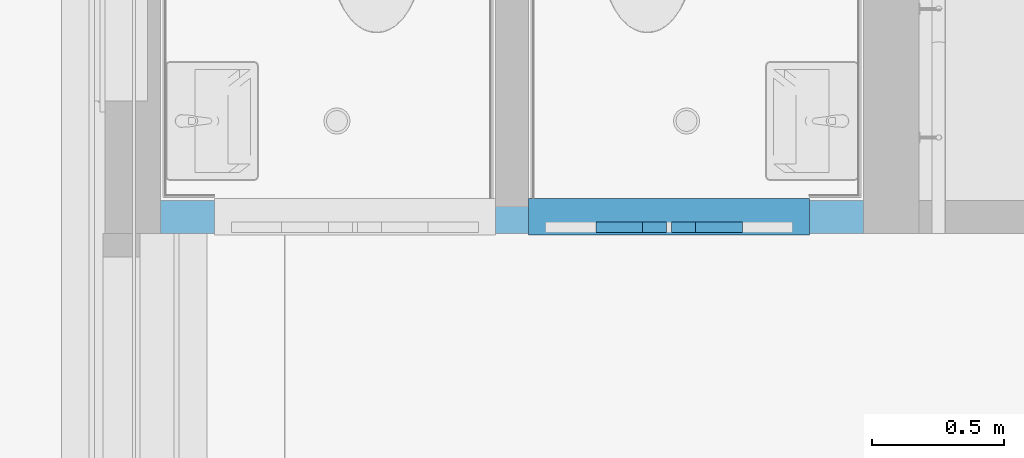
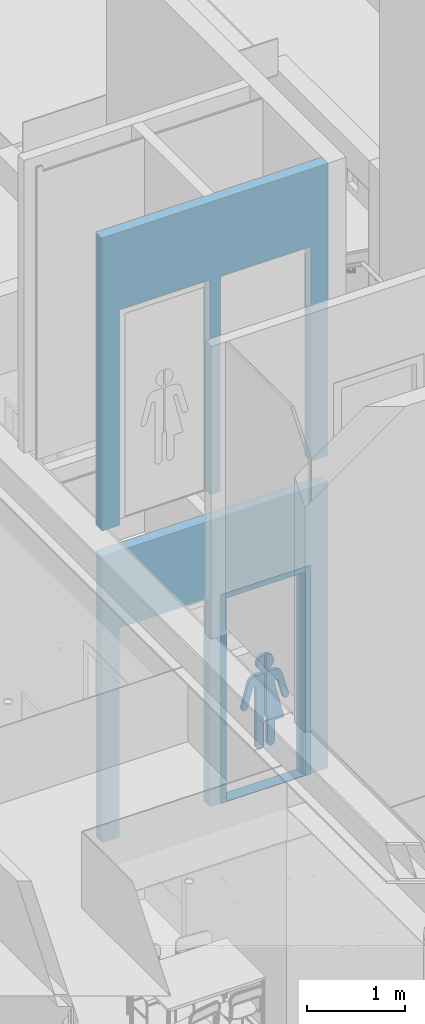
# One storey, part 56 of 347: 2 building element parts, 4 openings, 1 element without a shape of its own, plus 1 element that does not belong to this part.
"""IFC2X3 building model written with IfcOpenShell, lengths in millimetres."""

from ifc_helpers import new_model, entity, si_unit, converted_unit, derived_unit, money_unit, direction, frame, origin_with_axes, place, context, subcontext, project, spatial, faceted_brep, source, transform, mapped, material, type_object, element, fill, aggregate, save


model = new_model("IFC2X3")

# Units and contexts
model_context = context("Model", 3, precision=0.01, world=origin_with_axes(), true_north=direction((0.0, 1.0)))
plan_context = context("Plan", 3, precision=0.01, world=origin_with_axes(), true_north=direction((0.0, 1.0)))
body_context = subcontext(model_context, "Body", "Model", "MODEL_VIEW")
ifc_project = project(units=[si_unit("LENGTHUNIT", "METRE", prefix="MILLI"), si_unit("AREAUNIT", "SQUARE_METRE"), si_unit("VOLUMEUNIT", "CUBIC_METRE"), converted_unit("PLANEANGLEUNIT", "DEGREE", entity("IfcPlaneAngleMeasure", 0.0174532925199), si_unit("PLANEANGLEUNIT", "RADIAN"), dimensions=[0, 0, 0, 0, 0, 0, 0]), money_unit("EUR"), converted_unit("TIMEUNIT", "Year", entity("IfcTimeMeasure", 31556926.0), si_unit("TIMEUNIT", "SECOND"), dimensions=[0, 0, 1, 0, 0, 0, 0]), si_unit("MASSUNIT", "GRAM", prefix="KILO"), si_unit("THERMODYNAMICTEMPERATUREUNIT", "DEGREE_CELSIUS"), si_unit("LUMINOUSINTENSITYUNIT", "LUMEN"), si_unit("ENERGYUNIT", "JOULE", prefix="MEGA"), derived_unit("THERMALCONDUCTANCEUNIT", [(si_unit("POWERUNIT", "WATT"), 1), (si_unit("LENGTHUNIT", "METRE"), -1), (si_unit("THERMODYNAMICTEMPERATUREUNIT", "KELVIN"), -1)]), derived_unit("SPECIFICHEATCAPACITYUNIT", [(si_unit("ENERGYUNIT", "JOULE"), 1), (si_unit("MASSUNIT", "GRAM", prefix="KILO"), -1), (si_unit("THERMODYNAMICTEMPERATUREUNIT", "KELVIN"), -1)]), derived_unit("MASSDENSITYUNIT", [(si_unit("MASSUNIT", "GRAM", prefix="KILO"), 1), (si_unit("VOLUMEUNIT", "CUBIC_METRE"), -1)])], contexts=[model_context, plan_context])

# Site, building, storey
site_placement = place(None, origin_with_axes())
site = spatial("IfcSite", under=ifc_project, at=site_placement, Name="Site", CompositionType="ELEMENT")
building_placement = place(site_placement, origin_with_axes())
building = spatial("IfcBuilding", under=site, at=building_placement, Name="Naam gebouw", CompositionType="ELEMENT")
storey_placement = place(building_placement, origin_with_axes())
storey = spatial("IfcBuildingStorey", under=building, at=storey_placement, Name="begane grond", CompositionType="ELEMENT", Elevation=0.0)

# Wall, openings, door, building element parts
ifc_material_1 = material(Name="ALG - LICHTE SCHEIDINGSWAND")
wall_type = type_object("IfcWallType", Name="ALG LSW 125 125", PredefinedType="NOTDEFINED")
wall_placement = place(storey_placement, frame((35705.0, 30074.9999277, 0.0), z_axis=(0.0, 0.0, 1.0), x_axis=(1.0, 0.0, 0.0)))
wall = element("IfcWall", 1, at=wall_placement, inside=storey, type_object=wall_type, material=ifc_material_1, Name="22_GF 125 ECO DGS/2.75.2A", context=body_context, shape_type="Brep", body=[
    faceted_brep([(1392.5, 125.0, 2600.0), (1392.5, 125.0, 0.0), (1267.5, 125.0, 0.0), (1267.5, 125.0, 2600.0), (203.5, 125.0, 2600.0), (203.5, 125.0, 0.0), (0.0, 125.0, 0.0), (0.0, 125.0, 3560.0), (2660.0, 125.0, 3560.0), (2660.0, 125.0, 0.0), (2456.5, 125.0, 0.0), (2456.5, 125.0, 2600.0), (1392.5, 0.0, 2600.0), (1392.5, 0.0, 0.0), (1267.5, 0.0, 0.0), (1267.5, 0.0, 2600.0), (203.5, 0.0, 2600.0), (203.5, 0.0, 0.0), (0.0, 0.0, 0.0), (0.0, 0.0, 3560.0), (2660.0, 0.0, 3560.0), (2660.0, 0.0, 0.0), (2456.5, 0.0, 0.0), (2456.5, 0.0, 2600.0)], [[[0, 1, 2, 3, 4, 5, 6, 7, 8, 9, 10, 11]], [[1, 0, 12, 13]], [[1, 13, 14, 2]], [[2, 14, 15, 3]], [[3, 15, 16, 4]], [[4, 16, 17, 5]], [[17, 18, 6, 5]], [[7, 6, 18, 19]], [[8, 7, 19, 20]], [[20, 21, 9, 8]], [[22, 10, 9, 21]], [[11, 10, 22, 23]], [[0, 11, 23, 12]], [[23, 22, 21, 20, 19, 18, 17, 16, 15, 14, 13, 12]]]),
    faceted_brep([(203.5, 125.0, 6560.0), (203.5, 125.0, 3960.0), (203.5, 125.0, 3880.0), (0.0, 125.0, 3880.0), (0.0, 125.0, 7520.0), (2660.0, 125.0, 7520.0), (2660.0, 125.0, 3880.0), (2456.5, 125.0, 3880.0), (2456.5, 125.0, 3960.0), (2456.5, 125.0, 6560.0), (1392.5, 125.0, 6560.0), (1392.5, 125.0, 3960.0), (1392.5, 125.0, 3880.0), (1267.5, 125.0, 3880.0), (1267.5, 125.0, 3960.0), (1267.5, 125.0, 6560.0), (203.5, 0.0, 6560.0), (203.5, 0.0, 3960.0), (203.5, 0.0, 3880.0), (0.0, 0.0, 3880.0), (0.0, 0.0, 7520.0), (2660.0, 0.0, 7520.0), (2660.0, 0.0, 3880.0), (2456.5, 0.0, 3880.0), (2456.5, 0.0, 3960.0), (2456.5, 0.0, 6560.0), (1392.5, 0.0, 6560.0), (1392.5, 0.0, 3960.0), (1392.5, 0.0, 3880.0), (1267.5, 0.0, 3880.0), (1267.5, 0.0, 3960.0), (1267.5, 0.0, 6560.0)], [[[0, 1, 2, 3, 4, 5, 6, 7, 8, 9, 10, 11, 12, 13, 14, 15]], [[1, 0, 16, 17]], [[1, 17, 18, 2]], [[18, 19, 3, 2]], [[19, 20, 4, 3]], [[4, 20, 21, 5]], [[6, 5, 21, 22]], [[7, 6, 22, 23]], [[8, 7, 23, 24]], [[8, 24, 25, 9]], [[9, 25, 26, 10]], [[10, 26, 27, 11]], [[27, 28, 12, 11]], [[28, 29, 13, 12]], [[30, 14, 13, 29]], [[15, 14, 30, 31]], [[0, 15, 31, 16]], [[31, 30, 29, 28, 27, 26, 25, 24, 23, 22, 21, 20, 19, 18, 17, 16]]]),
])
opening_1_placement = place(wall_placement, frame((735.5, 0.0, 0.0), z_axis=(0.0, 0.0, 1.0), x_axis=(1.0, 0.0, 0.0)))
element("IfcOpeningElement", 2, at=opening_1_placement, cuts=wall, Name="32_02.05", context=body_context, shape_type="Brep", body=[
    faceted_brep([(-532.0, 125.0, 2600.0), (-532.0, 125.0, 0.0), (-532.0, -257.0, 0.0), (-532.0, -257.0, 2600.0), (532.0, 125.0, 2600.0), (532.0, 125.0, 0.0), (532.0, -257.0, 0.0), (532.0, -257.0, 2600.0)], [[[0, 1, 2, 3]], [[0, 4, 5, 1]], [[1, 5, 6, 2]], [[3, 2, 6, 7]], [[4, 0, 3, 7]], [[5, 4, 7, 6]]]),
])
opening_2_placement = place(wall_placement, frame((1924.5, 0.0, 0.0), z_axis=(0.0, 0.0, 1.0), x_axis=(1.0, 0.0, 0.0)))
opening_2 = element("IfcOpeningElement", 3, at=opening_2_placement, cuts=wall, Name="32_02.05", context=body_context, shape_type="Brep", body=[
    faceted_brep([(-532.0, 125.0, 2600.0), (-532.0, 125.0, 0.0), (-532.0, -257.0, 0.0), (-532.0, -257.0, 2600.0), (532.0, 125.0, 2600.0), (532.0, 125.0, 0.0), (532.0, -257.0, 0.0), (532.0, -257.0, 2600.0)], [[[0, 1, 2, 3]], [[0, 4, 5, 1]], [[1, 5, 6, 2]], [[3, 2, 6, 7]], [[4, 0, 3, 7]], [[5, 4, 7, 6]]]),
])
opening_3_placement = place(wall_placement, frame((1924.5, 0.0, 3960.0), z_axis=(0.0, 0.0, 1.0), x_axis=(1.0, 0.0, 0.0)))
element("IfcOpeningElement", 4, at=opening_3_placement, cuts=wall, Name="32_02.05", context=body_context, shape_type="Brep", body=[
    faceted_brep([(-532.0, -125.0, 0.0), (-532.0, -125.0, 2600.0), (-532.0, 257.0, 2600.0), (-532.0, 257.0, 0.0), (532.0, -125.0, 0.0), (532.0, -125.0, 2600.0), (532.0, 257.0, 2600.0), (532.0, 257.0, 0.0)], [[[0, 1, 2, 3]], [[0, 4, 5, 1]], [[1, 5, 6, 2]], [[3, 2, 6, 7]], [[4, 0, 3, 7]], [[5, 4, 7, 6]]]),
])
opening_4_placement = place(wall_placement, frame((735.5, 0.0, 3960.0), z_axis=(0.0, 0.0, 1.0), x_axis=(1.0, 0.0, 0.0)))
element("IfcOpeningElement", 5, at=opening_4_placement, cuts=wall, Name="32_02.05", context=body_context, shape_type="Brep", body=[
    faceted_brep([(-532.0, -125.0, 0.0), (-532.0, -125.0, 2600.0), (-532.0, 257.0, 2600.0), (-532.0, 257.0, 0.0), (532.0, -125.0, 0.0), (532.0, -125.0, 2600.0), (532.0, 257.0, 2600.0), (532.0, 257.0, 0.0)], [[[0, 1, 2, 3]], [[0, 4, 5, 1]], [[1, 5, 6, 2]], [[3, 2, 6, 7]], [[4, 0, 3, 7]], [[5, 4, 7, 6]]]),
])
door_style = type_object("IfcDoorStyle", Name="D1 25", ConstructionType="NOTDEFINED", OperationType="SINGLE_SWING_RIGHT", ParameterTakesPrecedence=False, Sizeable=False)
door_placement = place(opening_2_placement, frame((532.0, 0.0, 0.0), z_axis=(0.0, 0.0, 1.0), x_axis=(-1.0, 0.0, 0.0)))
door = element("IfcDoor", 6, at=door_placement, inside=storey, type_object=door_style, Name="32_02.05", ObjectType="DOOR", OverallHeight=2600.0, OverallWidth=1064.0)
fill(opening_2, door)
shared_shape_1 = source(origin_with_axes(), body_context, "Body", "Brep", [
    faceted_brep([(-467.0, -40.0, 10.0), (-442.0, -40.0, 10.0), (-442.0, -139.0, 10.0), (442.0, -139.0, 10.0), (442.0, -40.0, 10.0), (467.0, -40.0, 10.0), (467.0, 0.0, 10.0), (-467.0, 0.0, 10.0), (-467.0, -40.0, 0.0), (-442.0, -40.0, 0.0), (-442.0, -139.0, 0.0), (442.0, -139.0, 0.0), (442.0, -40.0, 0.0), (467.0, -40.0, 0.0), (467.0, 0.0, 0.0), (-467.0, 0.0, 0.0)], [[[0, 1, 2, 3, 4, 5, 6, 7]], [[1, 0, 8, 9]], [[10, 2, 1, 9]], [[2, 10, 11, 3]], [[3, 11, 12, 4]], [[5, 4, 12, 13]], [[13, 14, 6, 5]], [[15, 7, 6, 14]], [[8, 0, 7, 15]], [[9, 8, 15, 14, 13, 12, 11, 10]]]),
    faceted_brep([(-442.0, -50.0, 0.0), (-442.0, -50.0, 2510.0), (-442.0, -139.0, 2510.0), (-442.0, -139.0, 0.0), (-467.0, -50.0, 2510.0), (-467.0, -50.0, 0.0), (-467.0, 0.0, 2510.0), (-532.0, 0.0, 2510.0), (-532.0, -139.0, 2510.0), (-532.0, -139.0, 0.0), (-532.0, 0.0, 0.0), (-467.0, 0.0, 0.0)], [[[0, 1, 2, 3]], [[4, 1, 0, 5]], [[4, 6, 7, 8, 2, 1]], [[3, 2, 8, 9]], [[5, 0, 3, 9, 10, 11]], [[6, 4, 5, 11]], [[6, 11, 10, 7]], [[10, 9, 8, 7]]]),
    faceted_brep([(467.0, -50.0, 2510.0), (442.0, -50.0, 2510.0), (442.0, -139.0, 2510.0), (532.0, -139.0, 2510.0), (532.0, 0.0, 2510.0), (467.0, 0.0, 2510.0), (467.0, -50.0, 0.0), (442.0, -50.0, 0.0), (442.0, -139.0, 0.0), (532.0, -139.0, 0.0), (532.0, 0.0, 0.0), (467.0, 0.0, 0.0)], [[[0, 1, 2, 3, 4, 5]], [[1, 0, 6, 7]], [[1, 7, 8, 2]], [[3, 2, 8, 9]], [[4, 3, 9, 10]], [[11, 5, 4, 10]], [[0, 5, 11, 6]], [[6, 11, 10, 9, 8, 7]]]),
    faceted_brep([(-467.0, 0.0, 2535.0), (-467.0, 0.0, 2510.0), (-532.0, 0.0, 2510.0), (-532.0, 0.0, 2600.0), (532.0, 0.0, 2600.0), (532.0, 0.0, 2510.0), (467.0, 0.0, 2510.0), (467.0, 0.0, 2535.0), (-467.0, -50.0, 2535.0), (-467.0, -50.0, 2510.0), (-442.0, -50.0, 2510.0), (-442.0, -139.0, 2510.0), (-532.0, -139.0, 2510.0), (-532.0, -139.0, 2600.0), (532.0, -139.0, 2600.0), (532.0, -139.0, 2510.0), (467.0, -50.0, 2510.0), (442.0, -139.0, 2510.0), (442.0, -50.0, 2510.0), (467.0, -50.0, 2535.0)], [[[0, 1, 2, 3, 4, 5, 6, 7]], [[1, 0, 8, 9]], [[9, 10, 11, 12, 2, 1]], [[2, 12, 13, 3]], [[3, 13, 14, 4]], [[4, 14, 15, 5]], [[16, 6, 5, 15, 17, 18]], [[7, 6, 16, 19]], [[0, 7, 19, 8]], [[16, 18, 10, 9, 8, 19]], [[10, 18, 17, 11]], [[17, 15, 14, 13, 12, 11]]]),
])
building_element_part_1_placement = place(door_placement, origin_with_axes())
building_element_part_1 = element("IfcBuildingElementPart", 7, at=building_element_part_1_placement, context=body_context, shape_type="MappedRepresentation", body=[
    mapped(shared_shape_1, transform((532.0, 7.0, 0.0))),
])
ifc_material_2 = material(Name="Glas sticker")
shared_shape_2 = source(origin_with_axes(), body_context, "Body", "Brep", [
    faceted_brep([(201.58891637, -10.0, 1368.954906), (201.58891637, -50.0, 1368.954906), (276.62552127, -50.0, 1088.44895872), (276.62552127, -10.0, 1088.44895872), (195.949154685, -10.0, 1385.59511164), (195.949154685, -50.0, 1385.59511164), (187.162658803, -50.0, 1400.83915132), (175.866957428, -50.0, 1414.32329606), (162.405264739, -50.0, 1425.63783693), (147.186607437, -50.0, 1434.43898735), (130.673396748, -50.0, 1440.4593288), (113.367378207, -50.0, 1443.51593625), (104.580882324, -50.0, 1443.51593625), (10.0430200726, -50.0, 1443.51593625), (10.0430200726, -50.0, 890.229090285), (25.1075218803, -50.0, 890.229090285), (25.1075218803, -50.0, 563.286854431), (24.6932816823, -50.0, 557.54197595), (25.5217620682, -50.0, 550.06099695), (27.6345513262, -50.0, 542.8377749), (30.9674534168, -50.0, 536.091783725), (35.4191998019, -50.0, 530.027996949), (40.8545264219, -50.0, 524.830659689), (47.1082836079, -50.0, 520.657690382), (53.9904541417, -50.0, 517.635882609), (61.2919267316, -50.0, 515.857052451), (68.790849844, -50.0, 515.375248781), (76.2593724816, -50.0, 516.205110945), (83.4705673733, -50.0, 518.321424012), (90.2053260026, -50.0, 521.659884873), (96.2590161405, -50.0, 526.119056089), (101.447699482, -50.0, 531.563447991), (105.613720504, -50.0, 537.827635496), (108.630496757, -50.0, 544.721284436), (110.406365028, -50.0, 552.034934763), (110.887366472, -50.0, 559.546364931), (110.473126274, -50.0, 563.286854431), (110.473126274, -50.0, 1292.61952191), (110.695072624, -50.0, 1294.3081838), (111.717711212, -50.0, 1297.5569887), (113.288023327, -50.0, 1300.57856146), (115.358295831, -50.0, 1303.2810931), (117.865624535, -50.0, 1305.58246859), (120.733825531, -50.0, 1307.41276178), (123.875749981, -50.0, 1308.71636013), (127.195932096, -50.0, 1309.45365449), (130.593489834, -50.0, 1309.60224253), (133.965190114, -50.0, 1309.15760948), (137.208585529, -50.0, 1308.13326528), (140.225127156, -50.0, 1306.56033414), (142.923158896, -50.0, 1304.48660874), (145.220702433, -50.0, 1301.97509819), (147.047948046, -50.0, 1299.10211348), (148.349375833, -50.0, 1295.95494878), (149.011836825, -50.0, 1292.61952191), (207.923578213, -50.0, 1073.19870026), (208.722214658, -50.0, 1070.21469297), (211.322258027, -50.0, 1064.63143877), (214.850708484, -50.0, 1059.58525256), (219.200355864, -50.0, 1055.22946015), (224.239038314, -50.0, 1051.6964101), (229.813658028, -50.0, 1049.09345233), (235.754833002, -50.0, 1047.49967641), (241.882043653, -50.0, 1046.96350842), (248.009117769, -50.0, 1047.50123953), (253.949887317, -50.0, 1049.09653107), (259.523845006, -50.0, 1051.70091091), (264.561628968, -50.0, 1055.23524628), (268.910168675, -50.0, 1059.59214821), (272.437335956, -50.0, 1064.63923441), (275.035959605, -50.0, 1070.22315174), (276.627081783, -50.0, 1076.17423568), (277.162357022, -50.0, 1082.31166558), (277.162357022, -10.0, 1082.31166558), (276.627081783, -10.0, 1076.17423568), (275.035959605, -10.0, 1070.22315174), (272.437335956, -10.0, 1064.63923441), (268.910168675, -10.0, 1059.59214821), (264.561628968, -10.0, 1055.23524628), (259.523845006, -10.0, 1051.70091091), (253.949887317, -10.0, 1049.09653107), (248.009117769, -10.0, 1047.50123953), (241.882043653, -10.0, 1046.96350842), (235.754833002, -10.0, 1047.49967641), (229.813658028, -10.0, 1049.09345233), (224.239038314, -10.0, 1051.6964101), (219.200355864, -10.0, 1055.22946015), (214.850708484, -10.0, 1059.58525256), (211.322258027, -10.0, 1064.63143877), (208.722214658, -10.0, 1070.21469297), (207.923578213, -10.0, 1073.19870026), (149.011836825, -10.0, 1292.61952191), (148.349375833, -10.0, 1295.95494878), (147.047948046, -10.0, 1299.10211348), (145.220702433, -10.0, 1301.97509819), (142.923158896, -10.0, 1304.48660874), (140.225127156, -10.0, 1306.56033414), (137.208585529, -10.0, 1308.13326528), (133.965190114, -10.0, 1309.15760948), (130.593489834, -10.0, 1309.60224253), (127.195932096, -10.0, 1309.45365449), (123.875749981, -10.0, 1308.71636013), (120.733825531, -10.0, 1307.41276178), (117.865624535, -10.0, 1305.58246859), (115.358295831, -10.0, 1303.2810931), (113.288023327, -10.0, 1300.57856146), (111.717711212, -10.0, 1297.5569887), (110.695072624, -10.0, 1294.3081838), (110.473126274, -10.0, 1292.61952191), (110.473126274, -10.0, 563.286854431), (110.887366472, -10.0, 559.546364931), (110.406365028, -10.0, 552.034934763), (108.630496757, -10.0, 544.721284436), (105.613720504, -10.0, 537.827635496), (101.447699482, -10.0, 531.563447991), (96.2590161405, -10.0, 526.119056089), (90.2053260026, -10.0, 521.659884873), (83.4705673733, -10.0, 518.321424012), (76.2593724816, -10.0, 516.205110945), (68.790849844, -10.0, 515.375248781), (61.2919267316, -10.0, 515.857052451), (53.9904541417, -10.0, 517.635882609), (47.1082836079, -10.0, 520.657690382), (40.8545264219, -10.0, 524.830659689), (35.4191998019, -10.0, 530.027996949), (30.9674534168, -10.0, 536.091783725), (27.6345513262, -10.0, 542.8377749), (25.5217620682, -10.0, 550.06099695), (24.6932816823, -10.0, 557.54197595), (25.1075218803, -10.0, 563.286854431), (25.1075218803, -10.0, 890.229090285), (10.0430200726, -10.0, 890.229090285), (10.0430200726, -10.0, 1443.51593625), (104.580882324, -10.0, 1443.51593625), (113.367378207, -10.0, 1443.51593625), (130.673396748, -10.0, 1440.4593288), (147.186607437, -10.0, 1434.43898735), (162.405264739, -10.0, 1425.63783693), (175.866957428, -10.0, 1414.32329606), (187.162658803, -10.0, 1400.83915132)], [[[0, 1, 2, 3]], [[4, 5, 1, 0]], [[1, 5, 6, 7, 8, 9, 10, 11, 12, 13, 14, 15, 16, 17, 18, 19, 20, 21, 22, 23, 24, 25, 26, 27, 28, 29, 30, 31, 32, 33, 34, 35, 36, 37, 38, 39, 40, 41, 42, 43, 44, 45, 46, 47, 48, 49, 50, 51, 52, 53, 54, 55, 56, 57, 58, 59, 60, 61, 62, 63, 64, 65, 66, 67, 68, 69, 70, 71, 72, 2]], [[3, 2, 72, 73]], [[0, 3, 73, 74, 75, 76, 77, 78, 79, 80, 81, 82, 83, 84, 85, 86, 87, 88, 89, 90, 91, 92, 93, 94, 95, 96, 97, 98, 99, 100, 101, 102, 103, 104, 105, 106, 107, 108, 109, 110, 111, 112, 113, 114, 115, 116, 117, 118, 119, 120, 121, 122, 123, 124, 125, 126, 127, 128, 129, 130, 131, 132, 133, 134, 135, 136, 137, 138, 139, 4]], [[139, 6, 5, 4]], [[138, 7, 6, 139]], [[137, 8, 7, 138]], [[136, 9, 8, 137]], [[135, 10, 9, 136]], [[134, 11, 10, 135]], [[133, 12, 11, 134]], [[132, 13, 12, 133]], [[131, 14, 13, 132]], [[130, 15, 14, 131]], [[129, 16, 15, 130]], [[128, 17, 16, 129]], [[127, 18, 17, 128]], [[126, 19, 18, 127]], [[125, 20, 19, 126]], [[124, 21, 20, 125]], [[123, 22, 21, 124]], [[122, 23, 22, 123]], [[121, 24, 23, 122]], [[120, 25, 24, 121]], [[119, 26, 25, 120]], [[118, 27, 26, 119]], [[117, 28, 27, 118]], [[116, 29, 28, 117]], [[115, 30, 29, 116]], [[114, 31, 30, 115]], [[113, 32, 31, 114]], [[112, 33, 32, 113]], [[111, 34, 33, 112]], [[110, 35, 34, 111]], [[109, 36, 35, 110]], [[108, 37, 36, 109]], [[107, 38, 37, 108]], [[106, 39, 38, 107]], [[105, 40, 39, 106]], [[104, 41, 40, 105]], [[103, 42, 41, 104]], [[102, 43, 42, 103]], [[101, 44, 43, 102]], [[100, 45, 44, 101]], [[99, 46, 45, 100]], [[98, 47, 46, 99]], [[97, 48, 47, 98]], [[96, 49, 48, 97]], [[95, 50, 49, 96]], [[94, 51, 50, 95]], [[93, 52, 51, 94]], [[92, 53, 52, 93]], [[91, 54, 53, 92]], [[90, 55, 54, 91]], [[89, 56, 55, 90]], [[88, 57, 56, 89]], [[87, 58, 57, 88]], [[86, 59, 58, 87]], [[85, 60, 59, 86]], [[84, 61, 60, 85]], [[83, 62, 61, 84]], [[82, 63, 62, 83]], [[81, 64, 63, 82]], [[80, 65, 64, 81]], [[79, 66, 65, 80]], [[78, 67, 66, 79]], [[77, 68, 67, 78]], [[76, 69, 68, 77]], [[75, 70, 69, 76]], [[74, 71, 70, 75]], [[73, 72, 71, 74]]]),
    faceted_brep([(-10.0430200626, -10.0, 890.229090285), (-10.0430200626, -50.0, 890.229090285), (-25.1075218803, -50.0, 890.229090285), (-25.1075218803, -10.0, 890.229090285), (-10.0430200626, -10.0, 1443.51593625), (-10.0430200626, -50.0, 1443.51593625), (-104.580882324, -50.0, 1443.51593625), (-122.087001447, -50.0, 1442.36606156), (-139.061208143, -50.0, 1437.81025123), (-154.98774758, -50.0, 1430.37119778), (-169.382699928, -50.0, 1420.27493311), (-181.808681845, -50.0, 1407.82822709), (-191.888136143, -50.0, 1393.40926659), (-199.31480372, -50.0, 1377.45616444), (-201.58891637, -50.0, 1368.954906), (-275.831520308, -50.0, 1091.41563724), (-276.62708117, -50.0, 1088.44009521), (-277.162355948, -50.0, 1082.30266527), (-276.625519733, -50.0, 1076.16537218), (-275.032884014, -50.0, 1070.21469446), (-272.432840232, -50.0, 1064.63144045), (-268.904389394, -50.0, 1059.58525451), (-264.554741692, -50.0, 1055.22946244), (-259.516058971, -50.0, 1051.69641276), (-253.941439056, -50.0, 1049.09345542), (-248.000263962, -50.0, 1047.49967995), (-241.873053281, -50.0, 1046.96351241), (-235.745979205, -50.0, 1047.50124399), (-229.805209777, -50.0, 1049.09653598), (-224.231252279, -50.0, 1051.70091623), (-219.193468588, -50.0, 1055.235252), (-214.844929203, -50.0, 1059.59215425), (-211.317762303, -50.0, 1064.63924071), (-208.719139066, -50.0, 1070.22315824), (-207.923578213, -50.0, 1073.19870027), (-149.227842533, -50.0, 1292.61952191), (-149.003554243, -50.0, 1294.42542469), (-147.935653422, -50.0, 1297.90433437), (-146.280875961, -50.0, 1301.14464328), (-144.089501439, -50.0, 1304.04789628), (-141.428113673, -50.0, 1306.52587948), (-138.377577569, -50.0, 1308.50330061), (-135.030582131, -50.0, 1309.92007677), (-131.488824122, -50.0, 1310.73315989), (-127.859918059, -50.0, 1310.91784487), (-124.254126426, -50.0, 1310.46852015), (-120.781009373, -50.0, 1309.39883823), (-117.546095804, -50.0, 1307.74130085), (-114.647676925, -50.0, 1305.54627145), (-112.173819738, -50.0, 1302.8804449), (-110.199691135, -50.0, 1299.82482097), (-108.785274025, -50.0, 1296.47224326), (-108.013455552, -50.0, 1292.61952191), (-219.866038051, -50.0, 814.780876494), (-110.473126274, -50.0, 814.780876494), (-110.473126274, -50.0, 563.286854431), (-110.887366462, -50.0, 557.54197595), (-110.058886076, -50.0, 550.06099695), (-107.946096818, -50.0, 542.8377749), (-104.613194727, -50.0, 536.091783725), (-100.161448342, -50.0, 530.027996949), (-94.7261217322, -50.0, 524.830659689), (-88.4723645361, -50.0, 520.657690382), (-81.5901940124, -50.0, 517.635882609), (-74.2887214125, -50.0, 515.857052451), (-66.7897983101, -50.0, 515.375248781), (-59.3212756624, -50.0, 516.205110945), (-52.1100807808, -50.0, 518.321424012), (-45.3753221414, -50.0, 521.659884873), (-39.3216320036, -50.0, 526.119056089), (-34.1329486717, -50.0, 531.563447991), (-29.9669276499, -50.0, 537.827635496), (-26.9501513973, -50.0, 544.721284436), (-25.1742831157, -50.0, 552.034934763), (-24.6932816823, -50.0, 559.546364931), (-25.1075218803, -50.0, 563.286854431), (-25.1075218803, -10.0, 563.286854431), (-24.6932816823, -10.0, 559.546364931), (-25.1742831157, -10.0, 552.034934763), (-26.9501513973, -10.0, 544.721284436), (-29.9669276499, -10.0, 537.827635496), (-34.1329486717, -10.0, 531.563447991), (-39.3216320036, -10.0, 526.119056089), (-45.3753221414, -10.0, 521.659884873), (-52.1100807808, -10.0, 518.321424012), (-59.3212756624, -10.0, 516.205110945), (-66.7897983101, -10.0, 515.375248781), (-74.2887214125, -10.0, 515.857052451), (-81.5901940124, -10.0, 517.635882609), (-88.4723645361, -10.0, 520.657690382), (-94.7261217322, -10.0, 524.830659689), (-100.161448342, -10.0, 530.027996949), (-104.613194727, -10.0, 536.091783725), (-107.946096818, -10.0, 542.8377749), (-110.058886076, -10.0, 550.06099695), (-110.887366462, -10.0, 557.54197595), (-110.473126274, -10.0, 563.286854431), (-110.473126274, -10.0, 814.780876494), (-219.866038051, -10.0, 814.780876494), (-108.013455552, -10.0, 1292.61952191), (-108.785274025, -10.0, 1296.47224326), (-110.199691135, -10.0, 1299.82482097), (-112.173819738, -10.0, 1302.8804449), (-114.647676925, -10.0, 1305.54627145), (-117.546095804, -10.0, 1307.74130085), (-120.781009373, -10.0, 1309.39883823), (-124.254126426, -10.0, 1310.46852015), (-127.859918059, -10.0, 1310.91784487), (-131.488824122, -10.0, 1310.73315989), (-135.030582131, -10.0, 1309.92007677), (-138.377577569, -10.0, 1308.50330061), (-141.428113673, -10.0, 1306.52587948), (-144.089501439, -10.0, 1304.04789628), (-146.280875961, -10.0, 1301.14464328), (-147.935653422, -10.0, 1297.90433437), (-149.003554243, -10.0, 1294.42542469), (-149.227842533, -10.0, 1292.61952191), (-207.923578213, -10.0, 1073.19870027), (-208.719139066, -10.0, 1070.22315824), (-211.317762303, -10.0, 1064.63924071), (-214.844929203, -10.0, 1059.59215425), (-219.193468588, -10.0, 1055.235252), (-224.231252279, -10.0, 1051.70091623), (-229.805209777, -10.0, 1049.09653598), (-235.745979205, -10.0, 1047.50124399), (-241.873053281, -10.0, 1046.96351241), (-248.000263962, -10.0, 1047.49967995), (-253.941439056, -10.0, 1049.09345542), (-259.516058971, -10.0, 1051.69641276), (-264.554741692, -10.0, 1055.22946244), (-268.904389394, -10.0, 1059.58525451), (-272.432840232, -10.0, 1064.63144045), (-275.032884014, -10.0, 1070.21469446), (-276.625519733, -10.0, 1076.16537218), (-277.162355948, -10.0, 1082.30266527), (-276.62708117, -10.0, 1088.44009521), (-275.831520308, -10.0, 1091.41563724), (-201.58891637, -10.0, 1368.954906), (-199.31480372, -10.0, 1377.45616444), (-191.888136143, -10.0, 1393.40926659), (-181.808681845, -10.0, 1407.82822709), (-169.382699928, -10.0, 1420.27493311), (-154.98774758, -10.0, 1430.37119778), (-139.061208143, -10.0, 1437.81025123), (-122.087001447, -10.0, 1442.36606156), (-104.580882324, -10.0, 1443.51593625)], [[[0, 1, 2, 3]], [[4, 5, 1, 0]], [[1, 5, 6, 7, 8, 9, 10, 11, 12, 13, 14, 15, 16, 17, 18, 19, 20, 21, 22, 23, 24, 25, 26, 27, 28, 29, 30, 31, 32, 33, 34, 35, 36, 37, 38, 39, 40, 41, 42, 43, 44, 45, 46, 47, 48, 49, 50, 51, 52, 53, 54, 55, 56, 57, 58, 59, 60, 61, 62, 63, 64, 65, 66, 67, 68, 69, 70, 71, 72, 73, 74, 75, 2]], [[3, 2, 75, 76]], [[0, 3, 76, 77, 78, 79, 80, 81, 82, 83, 84, 85, 86, 87, 88, 89, 90, 91, 92, 93, 94, 95, 96, 97, 98, 99, 100, 101, 102, 103, 104, 105, 106, 107, 108, 109, 110, 111, 112, 113, 114, 115, 116, 117, 118, 119, 120, 121, 122, 123, 124, 125, 126, 127, 128, 129, 130, 131, 132, 133, 134, 135, 136, 137, 138, 139, 140, 141, 142, 143, 144, 145, 4]], [[145, 6, 5, 4]], [[144, 7, 6, 145]], [[143, 8, 7, 144]], [[142, 9, 8, 143]], [[141, 10, 9, 142]], [[140, 11, 10, 141]], [[139, 12, 11, 140]], [[138, 13, 12, 139]], [[137, 14, 13, 138]], [[136, 15, 14, 137]], [[135, 16, 15, 136]], [[134, 17, 16, 135]], [[133, 18, 17, 134]], [[132, 19, 18, 133]], [[131, 20, 19, 132]], [[130, 21, 20, 131]], [[129, 22, 21, 130]], [[128, 23, 22, 129]], [[127, 24, 23, 128]], [[126, 25, 24, 127]], [[125, 26, 25, 126]], [[124, 27, 26, 125]], [[123, 28, 27, 124]], [[122, 29, 28, 123]], [[121, 30, 29, 122]], [[120, 31, 30, 121]], [[119, 32, 31, 120]], [[118, 33, 32, 119]], [[117, 34, 33, 118]], [[116, 35, 34, 117]], [[115, 36, 35, 116]], [[114, 37, 36, 115]], [[113, 38, 37, 114]], [[112, 39, 38, 113]], [[111, 40, 39, 112]], [[110, 41, 40, 111]], [[109, 42, 41, 110]], [[108, 43, 42, 109]], [[107, 44, 43, 108]], [[106, 45, 44, 107]], [[105, 46, 45, 106]], [[104, 47, 46, 105]], [[103, 48, 47, 104]], [[102, 49, 48, 103]], [[101, 50, 49, 102]], [[100, 51, 50, 101]], [[99, 52, 51, 100]], [[98, 53, 52, 99]], [[97, 54, 53, 98]], [[96, 55, 54, 97]], [[95, 56, 55, 96]], [[94, 57, 56, 95]], [[93, 58, 57, 94]], [[92, 59, 58, 93]], [[91, 60, 59, 92]], [[90, 61, 60, 91]], [[89, 62, 61, 90]], [[88, 63, 62, 89]], [[87, 64, 63, 88]], [[86, 65, 64, 87]], [[85, 66, 65, 86]], [[84, 67, 66, 85]], [[83, 68, 67, 84]], [[82, 69, 68, 83]], [[81, 70, 69, 82]], [[80, 71, 70, 81]], [[79, 72, 71, 80]], [[78, 73, 72, 79]], [[77, 74, 73, 78]], [[76, 75, 74, 77]]]),
    faceted_brep([(-10.0430200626, -10.0, 1669.35630499), (-10.0430200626, -50.0, 1669.35630499), (-10.0430200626, -50.0, 1469.16959144), (-10.0430200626, -10.0, 1469.16959144), (-26.0925144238, -10.0, 1666.80395031), (-26.0925144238, -50.0, 1666.80395031), (-42.6057251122, -50.0, 1660.78360886), (-57.8243824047, -50.0, 1651.98245845), (-71.2860751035, -50.0, 1640.66791757), (-82.5817764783, -50.0, 1627.18377283), (-91.368272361, -50.0, 1611.93973315), (-97.3785895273, -50.0, 1595.39898096), (-100.430107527, -50.0, 1578.06409863), (-100.430107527, -50.0, 1569.26294821), (-99.4997261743, -50.0, 1553.01203348), (-95.1708587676, -50.0, 1535.9521583), (-87.9502729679, -50.0, 1519.90441461), (-78.0573626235, -50.0, 1505.35640498), (-65.7927188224, -50.0, 1492.75016333), (-51.5289965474, -50.0, 1482.46872393), (-35.6995917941, -50.0, 1474.82448312), (-18.7854730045, -50.0, 1470.04970729), (-18.7854730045, -10.0, 1470.04970729), (-35.6995917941, -10.0, 1474.82448312), (-51.5289965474, -10.0, 1482.46872393), (-65.7927188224, -10.0, 1492.75016333), (-78.0573626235, -10.0, 1505.35640498), (-87.9502729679, -10.0, 1519.90441461), (-95.1708587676, -10.0, 1535.9521583), (-99.4997261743, -10.0, 1553.01203348), (-100.430107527, -10.0, 1569.26294821), (-100.430107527, -10.0, 1578.06409863), (-97.3785895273, -10.0, 1595.39898096), (-91.368272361, -10.0, 1611.93973315), (-82.5817764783, -10.0, 1627.18377283), (-71.2860751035, -10.0, 1640.66791757), (-57.8243824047, -10.0, 1651.98245845), (-42.6057251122, -10.0, 1660.78360886)], [[[0, 1, 2, 3]], [[4, 5, 1, 0]], [[1, 5, 6, 7, 8, 9, 10, 11, 12, 13, 14, 15, 16, 17, 18, 19, 20, 21, 2]], [[3, 2, 21, 22]], [[0, 3, 22, 23, 24, 25, 26, 27, 28, 29, 30, 31, 32, 33, 34, 35, 36, 37, 4]], [[37, 6, 5, 4]], [[36, 7, 6, 37]], [[35, 8, 7, 36]], [[34, 9, 8, 35]], [[33, 10, 9, 34]], [[32, 11, 10, 33]], [[31, 12, 11, 32]], [[30, 13, 12, 31]], [[29, 14, 13, 30]], [[28, 15, 14, 29]], [[27, 16, 15, 28]], [[26, 17, 16, 27]], [[25, 18, 17, 26]], [[24, 19, 18, 25]], [[23, 20, 19, 24]], [[22, 21, 20, 23]]]),
    faceted_brep([(10.0430200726, -10.0, 1669.35630499), (10.0430200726, -50.0, 1669.35630499), (18.7854730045, -50.0, 1668.47618914), (18.7854730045, -10.0, 1668.47618914), (10.0430200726, -10.0, 1469.16959144), (10.0430200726, -50.0, 1469.16959144), (26.0925144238, -50.0, 1471.72194611), (42.6057251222, -50.0, 1477.74228756), (57.8243824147, -50.0, 1486.54343798), (71.2860751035, -50.0, 1497.85797885), (82.5817764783, -50.0, 1511.34212359), (91.368272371, -50.0, 1526.58616327), (97.3785895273, -50.0, 1543.12691547), (100.430107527, -50.0, 1560.4617978), (100.430107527, -50.0, 1569.26294821), (99.4997261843, -50.0, 1585.51386294), (95.1708587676, -50.0, 1602.57373813), (87.9502729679, -50.0, 1618.62148182), (78.0573626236, -50.0, 1633.16949145), (65.7927188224, -50.0, 1645.77573309), (51.5289965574, -50.0, 1656.05717249), (35.6995917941, -50.0, 1663.7014133), (35.6995917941, -10.0, 1663.7014133), (51.5289965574, -10.0, 1656.05717249), (65.7927188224, -10.0, 1645.77573309), (78.0573626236, -10.0, 1633.16949145), (87.9502729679, -10.0, 1618.62148182), (95.1708587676, -10.0, 1602.57373813), (99.4997261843, -10.0, 1585.51386294), (100.430107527, -10.0, 1569.26294821), (100.430107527, -10.0, 1560.4617978), (97.3785895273, -10.0, 1543.12691547), (91.368272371, -10.0, 1526.58616327), (82.5817764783, -10.0, 1511.34212359), (71.2860751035, -10.0, 1497.85797885), (57.8243824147, -10.0, 1486.54343798), (42.6057251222, -10.0, 1477.74228756), (26.0925144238, -10.0, 1471.72194611)], [[[0, 1, 2, 3]], [[4, 5, 1, 0]], [[1, 5, 6, 7, 8, 9, 10, 11, 12, 13, 14, 15, 16, 17, 18, 19, 20, 21, 2]], [[3, 2, 21, 22]], [[0, 3, 22, 23, 24, 25, 26, 27, 28, 29, 30, 31, 32, 33, 34, 35, 36, 37, 4]], [[37, 6, 5, 4]], [[36, 7, 6, 37]], [[35, 8, 7, 36]], [[34, 9, 8, 35]], [[33, 10, 9, 34]], [[32, 11, 10, 33]], [[31, 12, 11, 32]], [[30, 13, 12, 31]], [[29, 14, 13, 30]], [[28, 15, 14, 29]], [[27, 16, 15, 28]], [[26, 17, 16, 27]], [[25, 18, 17, 26]], [[24, 19, 18, 25]], [[23, 20, 19, 24]], [[22, 21, 20, 23]]]),
])
building_element_part_2_placement = place(door_placement, origin_with_axes())
building_element_part_2 = element("IfcBuildingElementPart", 8, at=building_element_part_2_placement, material=ifc_material_2, Name="Glas sticker", context=body_context, shape_type="MappedRepresentation", body=[
    mapped(shared_shape_2, transform((532.0, 7.0, 0.0))),
])
aggregate(door, [building_element_part_1, building_element_part_2])

save(model, "model.ifc")
